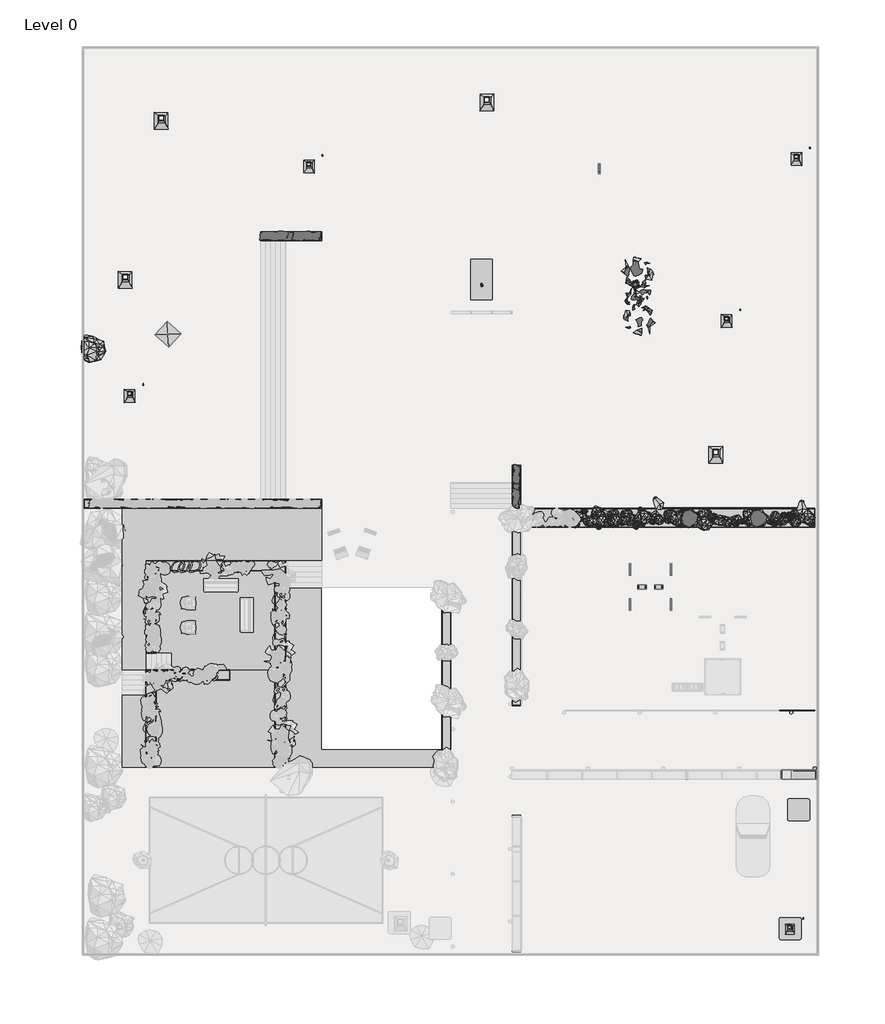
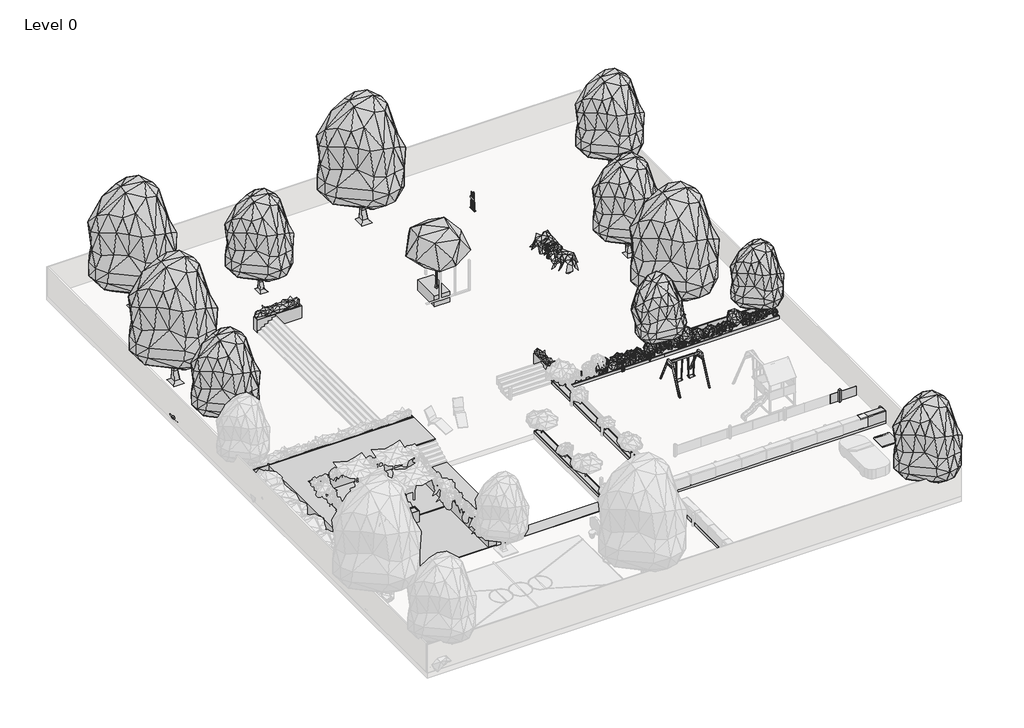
# One storey, part 4 of 4: 97 geographic elements, 4 proxies.
"""IFC4 building model written with IfcOpenShell, lengths in millimetres."""

from ifc_helpers import new_model, si_unit, origin, place, context, project, spatial, transform, mapped, element, save
from components import generic_models_1_generic_models_1_f5644560, generic_models_10_generic_models_10_160b2d12, generic_models_4_generic_models_4_294038c3, generic_models_7_generic_models_7_c26100cc, geographic_element_01e02b02, geographic_element_20805260, geographic_element_4fbb4c08, geographic_element_7a93afb1, geographic_element_43f6a992, geographic_element_9e3005e0, geographic_element_3e6169c2, geographic_element_27884fb9, geographic_element_228c287f, geographic_element_8a64e6b8, geographic_element_bd739b93, geographic_element_a0e0f227, geographic_element_0aed4f9d, geographic_element_f610efd1, geographic_element_6bb354fd, geographic_element_84fd217a, geographic_element_e4e10a39, geographic_element_c9fdac9c, geographic_element_cc1a56ab, geographic_element_db24e404, geographic_element_63926694, geographic_element_56f19f58, geographic_element_ddda1ed9, enscape_assetdefinition_bush_025_fern_enscape_ed9dc602, enscape_assetdefinition_bush_025_fern_enscape_5cccd865, enscape_assetdefinition_bush_025_fern_enscape_c4f5b710, enscape_assetdefinition_deciduous_tree_099_tree_enscape_5098c912, enscape_assetdefinition_fence_005_enscape_assetdefinition_7b85ec42, enscape_assetdefinition_swing_001_enscape_assetdefinition_1559533b

model = new_model("IFC4")

# Units and contexts
model_context = context("Model", 3, world=origin())
ifc_project = project(units=[si_unit("LENGTHUNIT", "METRE", prefix="MILLI")], contexts=[model_context])

# Site, building, storey
site = spatial("IfcSite", under=ifc_project)
building = spatial("IfcBuilding", under=site)
storey = spatial("IfcBuildingStorey", under=building, Name="Level 0", Elevation=0.0)

# Proxies
placement = place(None, origin())
generic_models_1_generic_models_1_shape = generic_models_1_generic_models_1_f5644560(model_context)
element("IfcBuildingElementProxy", 1, Name="Generic Models 1 : Generic Models 1", ObjectType="Generic Models 1 : Generic Models 1", at=placement, inside=storey, context=model_context, shape_type="MappedRepresentation", body=[
    mapped(generic_models_1_generic_models_1_shape, transform((0.0, 0.0, 0.0), x_axis=(1.0, 0.0, 0.0), y_axis=(0.0, 1.0, 0.0), z_axis=(0.0, 0.0, 1.0))),
])
generic_models_10_generic_models_10_shape = generic_models_10_generic_models_10_160b2d12(model_context)
element("IfcBuildingElementProxy", 2, Name="Generic Models 10 : Generic Models 10", ObjectType="Generic Models 10 : Generic Models 10", at=placement, inside=storey, context=model_context, shape_type="MappedRepresentation", body=[
    mapped(generic_models_10_generic_models_10_shape, transform((0.0, 0.0, 0.0), x_axis=(1.0, 0.0, 0.0), y_axis=(0.0, 1.0, 0.0), z_axis=(0.0, 0.0, 1.0))),
])
generic_models_4_generic_models_4_shape = generic_models_4_generic_models_4_294038c3(model_context)
element("IfcBuildingElementProxy", 3, Name="Generic Models 4 : Generic Models 4", ObjectType="Generic Models 4 : Generic Models 4", at=placement, inside=storey, context=model_context, shape_type="MappedRepresentation", body=[
    mapped(generic_models_4_generic_models_4_shape, transform((0.0, 0.0, 0.0), x_axis=(1.0, 0.0, 0.0), y_axis=(0.0, 1.0, 0.0), z_axis=(0.0, 0.0, 1.0))),
])
generic_models_7_generic_models_7_shape = generic_models_7_generic_models_7_c26100cc(model_context)
element("IfcBuildingElementProxy", 4, Name="Generic Models 7 : Generic Models 7", ObjectType="Generic Models 7 : Generic Models 7", at=placement, inside=storey, context=model_context, shape_type="MappedRepresentation", body=[
    mapped(generic_models_7_generic_models_7_shape, transform((0.0, 0.0, 0.0), x_axis=(1.0, 0.0, 0.0), y_axis=(0.0, 1.0, 0.0), z_axis=(0.0, 0.0, 1.0))),
])

# Geographic elements
geographic_element_shape = geographic_element_01e02b02(model_context)
element("IfcGeographicElement", 5, ObjectType="Enscape AssetDefinition - Sunshade 001 : Enscape AssetDefinition - Sunshade 001", at=placement, inside=storey, context=model_context, shape_type="MappedRepresentation", body=[
    mapped(geographic_element_shape, transform((-2409.3302501, 7448.147853, 0.0), x_axis=(0.453990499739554, 0.8910065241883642, 0.0), y_axis=(-0.8910065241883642, 0.453990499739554, 0.0), z_axis=(0.0, 0.0, 1.0))),
])
geographic_element_2_shape = geographic_element_20805260(model_context)
element("IfcGeographicElement", 6, ObjectType="Enscape AssetDefinition - Potted Plant 230 Grapevines : Enscape AssetDefinition - Potted Plant 230 Grapevines", at=placement, inside=storey, context=model_context, shape_type="MappedRepresentation", body=[
    mapped(geographic_element_2_shape, transform((23620.7688632, 10229.0429157, 1140.0), x_axis=(0.5299192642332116, 0.8480480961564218, 0.0), y_axis=(-0.8480480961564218, 0.5299192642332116, 0.0), z_axis=(0.0, 0.0, 1.0))),
])
geographic_element_3_shape = geographic_element_4fbb4c08(model_context)
element("IfcGeographicElement", 7, ObjectType="Enscape AssetDefinition - Potted Plant 230 Grapevines : Enscape AssetDefinition - Potted Plant 230 Grapevines 2", at=placement, inside=storey, context=model_context, shape_type="MappedRepresentation", body=[
    mapped(geographic_element_3_shape, transform((23998.3348394, 9773.5006455, 1140.0), x_axis=(-0.5299192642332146, -0.84804809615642, 0.0), y_axis=(0.84804809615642, -0.5299192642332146, 0.0), z_axis=(0.0, 0.0, 1.0))),
])
element("IfcGeographicElement", 8, ObjectType="Enscape AssetDefinition - Potted Plant 230 Grapevines : Enscape AssetDefinition - Potted Plant 230 Grapevines 2", at=placement, inside=storey, context=model_context, shape_type="MappedRepresentation", body=[
    mapped(geographic_element_3_shape, transform((23526.4936226, 9451.5320594, 1140.0), x_axis=(0.48480962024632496, -0.8746197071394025, 0.0), y_axis=(0.8746197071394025, 0.48480962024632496, 0.0), z_axis=(0.0, 0.0, 1.0))),
])
geographic_element_4_shape = geographic_element_7a93afb1(model_context)
element("IfcGeographicElement", 9, ObjectType="Enscape AssetDefinition - Potted Plant 230 Grapevines : Enscape AssetDefinition - Potted Plant 230 Grapevines 3", at=placement, inside=storey, context=model_context, shape_type="MappedRepresentation", body=[
    mapped(geographic_element_4_shape, transform((23811.9745708, 8230.1848718, 1140.0), x_axis=(-0.7771459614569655, 0.6293203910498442, 0.0), y_axis=(-0.6293203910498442, -0.7771459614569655, 0.0), z_axis=(0.0, 0.0, 1.0))),
])
element("IfcGeographicElement", 10, ObjectType="Enscape AssetDefinition - Potted Plant 230 Grapevines : Enscape AssetDefinition - Potted Plant 230 Grapevines 3", at=placement, inside=storey, context=model_context, shape_type="MappedRepresentation", body=[
    mapped(geographic_element_4_shape, transform((23731.9958415, 10932.4162792, 1050.0), x_axis=(0.8480480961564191, -0.5299192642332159, 0.0), y_axis=(0.5299192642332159, 0.8480480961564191, 0.0), z_axis=(0.0, 0.0, 1.0))),
])
geographic_element_5_shape = geographic_element_43f6a992(model_context)
element("IfcGeographicElement", 11, ObjectType="Enscape AssetDefinition - Billiard Cue 002 Holder : Enscape AssetDefinition - Billiard Cue 002 Holder", at=placement, inside=storey, context=model_context, shape_type="MappedRepresentation", body=[
    mapped(geographic_element_5_shape, transform((21543.1337784, 16666.9206658, 650.0), x_axis=(0.0, 1.0, 0.0), y_axis=(-1.0, 0.0, 0.0), z_axis=(0.0, 0.0, 1.0))),
])
geographic_element_6_shape = geographic_element_9e3005e0(model_context)
element("IfcGeographicElement", 12, ObjectType="Enscape AssetDefinition - Potted Plant 250 Snake Plant : Enscape AssetDefinition - Potted Plant 250 Snake Plant", at=placement, inside=storey, context=model_context, shape_type="MappedRepresentation", body=[
    mapped(geographic_element_6_shape, transform((16987.3079409, -532.1678875, 950.0), x_axis=(1.0, 0.0, 0.0), y_axis=(0.0, 1.0, 0.0), z_axis=(0.0, 0.0, 1.0))),
])
element("IfcGeographicElement", 13, ObjectType="Enscape AssetDefinition - Potted Plant 250 Snake Plant : Enscape AssetDefinition - Potted Plant 250 Snake Plant", at=placement, inside=storey, context=model_context, shape_type="MappedRepresentation", body=[
    mapped(geographic_element_6_shape, transform((16963.1337784, -1513.0793342, 950.0), x_axis=(-1.0, 0.0, 0.0), y_axis=(0.0, -1.0, 0.0), z_axis=(0.0, 0.0, 1.0))),
])
geographic_element_7_shape = geographic_element_3e6169c2(model_context)
element("IfcGeographicElement", 14, ObjectType="Enscape AssetDefinition - Hedge 014 Modular : Enscape AssetDefinition - Hedge 014 Modular", at=placement, inside=storey, context=model_context, shape_type="MappedRepresentation", body=[
    mapped(geographic_element_7_shape, transform((32706.1683235, -17059.8480259, 220.0), x_axis=(1.0, 0.0, 0.0), y_axis=(0.0, 1.0, 0.0), z_axis=(0.0, 0.0, 1.0))),
])
geographic_element_8_shape = geographic_element_27884fb9(model_context)
element("IfcGeographicElement", 15, ObjectType="Enscape AssetDefinition - Evergreen Tree 066 Lophostemon : Enscape AssetDefinition - Evergreen Tree 066 Lophostemon 2", at=placement, inside=storey, context=model_context, shape_type="MappedRepresentation", body=[
    mapped(geographic_element_8_shape, transform((24726.9712662, -2662.1939391, 220.0), x_axis=(0.8386705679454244, 0.5446390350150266, 0.0), y_axis=(-0.5446390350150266, 0.8386705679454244, 0.0), z_axis=(0.0, 0.0, 1.0))),
])
element("IfcGeographicElement", 16, ObjectType="Enscape AssetDefinition - Evergreen Tree 066 Lophostemon : Enscape AssetDefinition - Evergreen Tree 066 Lophostemon 2", at=placement, inside=storey, context=model_context, shape_type="MappedRepresentation", body=[
    mapped(geographic_element_8_shape, transform((32363.1337784, -2692.1678875, 220.0), x_axis=(1.0, 0.0, 0.0), y_axis=(0.0, 1.0, 0.0), z_axis=(0.0, 0.0, 1.0))),
])
geographic_element_9_shape = geographic_element_228c287f(model_context)
element("IfcGeographicElement", 17, ObjectType="Enscape AssetDefinition - Bush 012 English Laurel : Enscape AssetDefinition - Bush 012 English Laurel 2", at=placement, inside=storey, context=model_context, shape_type="MappedRepresentation", body=[
    mapped(geographic_element_9_shape, transform((-6584.7834401, 6663.9078914, 0.0), x_axis=(-0.7796599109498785, 0.626203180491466, 0.0), y_axis=(-0.626203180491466, -0.7796599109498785, 0.0), z_axis=(0.0, 0.0, 1.0))),
])
geographic_element_10_shape = geographic_element_8a64e6b8(model_context)
element("IfcGeographicElement", 18, ObjectType="Enscape AssetDefinition - Bush 012 English Laurel : Enscape AssetDefinition - Bush 012 English Laurel 5", at=placement, inside=storey, context=model_context, shape_type="MappedRepresentation", body=[
    mapped(geographic_element_10_shape, transform((21626.9248447, -2686.8844016, 220.0), x_axis=(-0.7071067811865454, 0.7071067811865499, 0.0), y_axis=(-0.7071067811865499, -0.7071067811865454, 0.0), z_axis=(0.0, 0.0, 1.0))),
])
geographic_element_11_shape = geographic_element_bd739b93(model_context)
element("IfcGeographicElement", 19, ObjectType="Enscape AssetDefinition - Bush 132 Rose of Sharon : Enscape AssetDefinition - Bush 132 Rose of Sharon", at=placement, inside=storey, context=model_context, shape_type="MappedRepresentation", body=[
    mapped(geographic_element_11_shape, transform((30443.1337784, -2772.1678875, 220.0), x_axis=(1.0, 0.0, 0.0), y_axis=(0.0, 1.0, 0.0), z_axis=(0.0, 0.0, 1.0))),
])
geographic_element_12_shape = geographic_element_a0e0f227(model_context)
element("IfcGeographicElement", 20, ObjectType="Enscape AssetDefinition - Bush 135 Rose of Sharon : Enscape AssetDefinition - Bush 135 Rose of Sharon", at=placement, inside=storey, context=model_context, shape_type="MappedRepresentation", body=[
    mapped(geographic_element_12_shape, transform((26615.794841, -2776.8168145, 220.0), x_axis=(1.0, 0.0, 0.0), y_axis=(0.0, 1.0, 0.0), z_axis=(0.0, 0.0, 1.0))),
])
geographic_element_13_shape = geographic_element_0aed4f9d(model_context)
element("IfcGeographicElement", 21, ObjectType="Enscape AssetDefinition - Bush 135 Rose of Sharon : Enscape AssetDefinition - Bush 135 Rose of Sharon 2", at=placement, inside=storey, context=model_context, shape_type="MappedRepresentation", body=[
    mapped(geographic_element_13_shape, transform((27443.1337784, -3052.1678875, 220.0), x_axis=(1.0, 0.0, 0.0), y_axis=(0.0, 1.0, 0.0), z_axis=(0.0, 0.0, 1.0))),
])
element("IfcGeographicElement", 22, ObjectType="Enscape AssetDefinition - Bush 135 Rose of Sharon : Enscape AssetDefinition - Bush 135 Rose of Sharon 2", at=placement, inside=storey, context=model_context, shape_type="MappedRepresentation", body=[
    mapped(geographic_element_13_shape, transform((24041.8688962, -2694.6805431, 220.0), x_axis=(1.0, 0.0, 0.0), y_axis=(0.0, 1.0, 0.0), z_axis=(0.0, 0.0, 1.0))),
])
element("IfcGeographicElement", 23, ObjectType="Enscape AssetDefinition - Bush 135 Rose of Sharon : Enscape AssetDefinition - Bush 135 Rose of Sharon 2", at=placement, inside=storey, context=model_context, shape_type="MappedRepresentation", body=[
    mapped(geographic_element_13_shape, transform((33141.8688962, -2694.6805431, 220.0), x_axis=(1.0, 0.0, 0.0), y_axis=(0.0, 1.0, 0.0), z_axis=(0.0, 0.0, 1.0))),
])
geographic_element_14_shape = geographic_element_f610efd1(model_context)
element("IfcGeographicElement", 24, ObjectType="Enscape AssetDefinition - Bush 012 English Laurel : Enscape AssetDefinition - Bush 012 English Laurel 7", at=placement, inside=storey, context=model_context, shape_type="MappedRepresentation", body=[
    mapped(geographic_element_14_shape, transform((27472.5659538, -2598.6563377, 220.0), x_axis=(0.7071067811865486, 0.7071067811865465, 0.0), y_axis=(-0.7071067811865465, 0.7071067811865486, 0.0), z_axis=(0.0, 0.0, 1.0))),
])
element("IfcGeographicElement", 25, ObjectType="Enscape AssetDefinition - Bush 012 English Laurel : Enscape AssetDefinition - Bush 012 English Laurel 7", at=placement, inside=storey, context=model_context, shape_type="MappedRepresentation", body=[
    mapped(geographic_element_14_shape, transform((23330.6772993, -2868.8158431, 220.0), x_axis=(0.7071067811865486, 0.7071067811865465, 0.0), y_axis=(-0.7071067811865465, 0.7071067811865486, 0.0), z_axis=(0.0, 0.0, 1.0))),
])
element("IfcGeographicElement", 26, ObjectType="Enscape AssetDefinition - Bush 012 English Laurel : Enscape AssetDefinition - Bush 012 English Laurel 7", at=placement, inside=storey, context=model_context, shape_type="MappedRepresentation", body=[
    mapped(geographic_element_14_shape, transform((29972.5659538, -2598.6563377, 220.0), x_axis=(0.7071067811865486, 0.7071067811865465, 0.0), y_axis=(-0.7071067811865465, 0.7071067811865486, 0.0), z_axis=(0.0, 0.0, 1.0))),
])
geographic_element_15_shape = geographic_element_6bb354fd(model_context)
element("IfcGeographicElement", 27, ObjectType="Enscape AssetDefinition - Bush 132 Rose of Sharon : Enscape AssetDefinition - Bush 132 Rose of Sharon 2", at=placement, inside=storey, context=model_context, shape_type="MappedRepresentation", body=[
    mapped(geographic_element_15_shape, transform((22497.4166441, -2868.8158431, 250.0), x_axis=(1.0, 0.0, 0.0), y_axis=(0.0, 1.0, 0.0), z_axis=(0.0, 0.0, 1.0))),
])
element("IfcGeographicElement", 28, ObjectType="Enscape AssetDefinition - Bush 132 Rose of Sharon : Enscape AssetDefinition - Bush 132 Rose of Sharon 2", at=placement, inside=storey, context=model_context, shape_type="MappedRepresentation", body=[
    mapped(geographic_element_15_shape, transform((21737.4166441, -2868.8158431, 250.0), x_axis=(1.0, 0.0, 0.0), y_axis=(0.0, 1.0, 0.0), z_axis=(0.0, 0.0, 1.0))),
])
geographic_element_16_shape = geographic_element_84fd217a(model_context)
element("IfcGeographicElement", 29, ObjectType="Enscape AssetDefinition - Creeper Plant 015 Bower Vine : Enscape AssetDefinition - Creeper Plant 015 Bower Vine 4", at=placement, inside=storey, context=model_context, shape_type="MappedRepresentation", body=[
    mapped(geographic_element_16_shape, transform((21584.5455937, -3306.9781298, 220.0), x_axis=(1.0, 0.0, 0.0), y_axis=(0.0, 1.0, 0.0), z_axis=(0.0, 0.0, 1.0))),
])
geographic_element_17_shape = geographic_element_e4e10a39(model_context)
element("IfcGeographicElement", 30, ObjectType="Enscape AssetDefinition - Bush 135 Rose of Sharon : Enscape AssetDefinition - Bush 135 Rose of Sharon 4", at=placement, inside=storey, context=model_context, shape_type="MappedRepresentation", body=[
    mapped(geographic_element_17_shape, transform((31404.338219, -2669.7511491, 220.0), x_axis=(1.0, 0.0, 0.0), y_axis=(0.0, 1.0, 0.0), z_axis=(0.0, 0.0, 1.0))),
])
element("IfcGeographicElement", 31, ObjectType="Enscape AssetDefinition - Bush 135 Rose of Sharon : Enscape AssetDefinition - Bush 135 Rose of Sharon 4", at=placement, inside=storey, context=model_context, shape_type="MappedRepresentation", body=[
    mapped(geographic_element_17_shape, transform((32500.1765524, -2983.9777347, 220.0), x_axis=(1.0, 0.0, 0.0), y_axis=(0.0, 1.0, 0.0), z_axis=(0.0, 0.0, 1.0))),
])
element("IfcGeographicElement", 32, ObjectType="Enscape AssetDefinition - Bush 135 Rose of Sharon : Enscape AssetDefinition - Bush 135 Rose of Sharon 4", at=placement, inside=storey, context=model_context, shape_type="MappedRepresentation", body=[
    mapped(geographic_element_17_shape, transform((28720.1765524, -2983.9777347, 220.0), x_axis=(1.0, 0.0, 0.0), y_axis=(0.0, 1.0, 0.0), z_axis=(0.0, 0.0, 1.0))),
])
element("IfcGeographicElement", 33, ObjectType="Enscape AssetDefinition - Bush 135 Rose of Sharon : Enscape AssetDefinition - Bush 135 Rose of Sharon 4", at=placement, inside=storey, context=model_context, shape_type="MappedRepresentation", body=[
    mapped(geographic_element_17_shape, transform((24922.4914097, -2851.3596472, 220.0), x_axis=(1.0, 0.0, 0.0), y_axis=(0.0, 1.0, 0.0), z_axis=(0.0, 0.0, 1.0))),
])
geographic_element_18_shape = geographic_element_c9fdac9c(model_context)
element("IfcGeographicElement", 34, ObjectType="Enscape AssetDefinition - Pathway Lamp 002 : Enscape AssetDefinition - Pathway Lamp 002", at=placement, inside=storey, context=model_context, shape_type="MappedRepresentation", body=[
    mapped(geographic_element_18_shape, transform((33593.1337784, -16712.4735801, 0.0), x_axis=(0.0, 1.0, 0.0), y_axis=(-1.0, 0.0, 0.0), z_axis=(0.0, 0.0, 1.0))),
])
geographic_element_19_shape = geographic_element_cc1a56ab(model_context)
element("IfcGeographicElement", 35, ObjectType="Enscape AssetDefinition - Pathway Lamp 002 : Enscape AssetDefinition - Pathway Lamp 002", at=placement, inside=storey, context=model_context, shape_type="MappedRepresentation", body=[
    mapped(geographic_element_19_shape, transform((32280.6337784, -13612.7158507, 0.0), x_axis=(0.0, -1.0, 0.0), y_axis=(1.0, 0.0, 0.0), z_axis=(0.0, 0.0, 1.0))),
])
geographic_element_20_shape = geographic_element_db24e404(model_context)
element("IfcGeographicElement", 36, ObjectType="Enscape AssetDefinition - Evergreen Tree 066 Lophostemon : Enscape AssetDefinition - Evergreen Tree 066 Lophostemon 3", at=placement, inside=storey, context=model_context, shape_type="MappedRepresentation", body=[
    mapped(geographic_element_20_shape, transform((5463.1337784, 16851.8261159, 0.0), x_axis=(1.0, 0.0, 0.0), y_axis=(0.0, 1.0, 0.0), z_axis=(0.0, 0.0, 1.0))),
])
element("IfcGeographicElement", 37, ObjectType="Enscape AssetDefinition - Evergreen Tree 066 Lophostemon : Enscape AssetDefinition - Evergreen Tree 066 Lophostemon 3", at=placement, inside=storey, context=model_context, shape_type="MappedRepresentation", body=[
    mapped(geographic_element_20_shape, transform((28720.1765524, 8254.720421, 0.0), x_axis=(1.0, 0.0, 0.0), y_axis=(0.0, 1.0, 0.0), z_axis=(0.0, 0.0, 1.0))),
])
element("IfcGeographicElement", 38, ObjectType="Enscape AssetDefinition - Evergreen Tree 066 Lophostemon : Enscape AssetDefinition - Evergreen Tree 066 Lophostemon 3", at=placement, inside=storey, context=model_context, shape_type="MappedRepresentation", body=[
    mapped(geographic_element_20_shape, transform((32233.1447257, -25633.0793342, 0.0), x_axis=(1.0, 0.0, 0.0), y_axis=(0.0, 1.0, 0.0), z_axis=(0.0, 0.0, 1.0))),
])
element("IfcGeographicElement", 39, ObjectType="Enscape AssetDefinition - Evergreen Tree 066 Lophostemon : Enscape AssetDefinition - Evergreen Tree 066 Lophostemon 3", at=placement, inside=storey, context=model_context, shape_type="MappedRepresentation", body=[
    mapped(geographic_element_20_shape, transform((32599.7525619, 17266.9206658, 0.0), x_axis=(1.0, 0.0, 0.0), y_axis=(0.0, 1.0, 0.0), z_axis=(0.0, 0.0, 1.0))),
])
element("IfcGeographicElement", 40, ObjectType="Enscape AssetDefinition - Evergreen Tree 066 Lophostemon : Enscape AssetDefinition - Evergreen Tree 066 Lophostemon 3", at=placement, inside=storey, context=model_context, shape_type="MappedRepresentation", body=[
    mapped(geographic_element_20_shape, transform((-4510.5821219, 4086.0519074, 0.0), x_axis=(1.0, 0.0, 0.0), y_axis=(0.0, 1.0, 0.0), z_axis=(0.0, 0.0, 1.0))),
])
geographic_element_21_shape = geographic_element_63926694(model_context)
element("IfcGeographicElement", 41, ObjectType="Enscape AssetDefinition - Flowerbed 002 : Enscape AssetDefinition - Flowerbed 002", at=placement, inside=storey, context=model_context, shape_type="MappedRepresentation", body=[
    mapped(geographic_element_21_shape, transform((32233.1447257, -25633.0793342, 0.0), x_axis=(1.0, 0.0, 0.0), y_axis=(0.0, 1.0, 0.0), z_axis=(0.0, 0.0, 1.0))),
])
element("IfcGeographicElement", 42, ObjectType="Enscape AssetDefinition - Flowerbed 002 : Enscape AssetDefinition - Flowerbed 002", at=placement, inside=storey, context=model_context, shape_type="MappedRepresentation", body=[
    mapped(geographic_element_21_shape, transform((32693.4440978, -19022.8298761, 0.0), x_axis=(1.0, 0.0, 0.0), y_axis=(0.0, 1.0, 0.0), z_axis=(0.0, 0.0, 1.0))),
])
geographic_element_22_shape = geographic_element_56f19f58(model_context)
element("IfcGeographicElement", 43, ObjectType="Enscape AssetDefinition - Evergreen Tree 066 Lophostemon : Enscape AssetDefinition - Evergreen Tree 066 Lophostemon 4", at=placement, inside=storey, context=model_context, shape_type="MappedRepresentation", body=[
    mapped(geographic_element_22_shape, transform((-2756.8662216, 19416.9206658, 0.0), x_axis=(1.0, 0.0, 0.0), y_axis=(0.0, 1.0, 0.0), z_axis=(0.0, 0.0, 1.0))),
])
element("IfcGeographicElement", 44, ObjectType="Enscape AssetDefinition - Evergreen Tree 066 Lophostemon : Enscape AssetDefinition - Evergreen Tree 066 Lophostemon 4", at=placement, inside=storey, context=model_context, shape_type="MappedRepresentation", body=[
    mapped(geographic_element_22_shape, transform((-4756.8662216, 10566.9206658, 0.0), x_axis=(1.0, 0.0, 0.0), y_axis=(0.0, 1.0, 0.0), z_axis=(0.0, 0.0, 1.0))),
])
element("IfcGeographicElement", 45, ObjectType="Enscape AssetDefinition - Evergreen Tree 066 Lophostemon : Enscape AssetDefinition - Evergreen Tree 066 Lophostemon 4", at=placement, inside=storey, context=model_context, shape_type="MappedRepresentation", body=[
    mapped(geographic_element_22_shape, transform((15376.9648541, 20441.218895, 0.0), x_axis=(1.0, 0.0, 0.0), y_axis=(0.0, 1.0, 0.0), z_axis=(0.0, 0.0, 1.0))),
])
element("IfcGeographicElement", 46, ObjectType="Enscape AssetDefinition - Evergreen Tree 066 Lophostemon : Enscape AssetDefinition - Evergreen Tree 066 Lophostemon 4", at=placement, inside=storey, context=model_context, shape_type="MappedRepresentation", body=[
    mapped(geographic_element_22_shape, transform((28121.1331353, 816.9206658, 0.0), x_axis=(1.0, 0.0, 0.0), y_axis=(0.0, 1.0, 0.0), z_axis=(0.0, 0.0, 1.0))),
])
geographic_element_23_shape = geographic_element_ddda1ed9(model_context)
element("IfcGeographicElement", 47, ObjectType="Enscape AssetDefinition - Potted Plant 250 Snake Plant : Enscape AssetDefinition - Potted Plant 250 Snake Plant 2", at=placement, inside=storey, context=model_context, shape_type="MappedRepresentation", body=[
    mapped(geographic_element_23_shape, transform((5143.1337784, 12926.9206658, 950.0), x_axis=(0.0, -1.0, 0.0), y_axis=(1.0, 0.0, 0.0), z_axis=(0.0, 0.0, 1.0))),
])
element("IfcGeographicElement", 48, ObjectType="Enscape AssetDefinition - Potted Plant 250 Snake Plant : Enscape AssetDefinition - Potted Plant 250 Snake Plant 2", at=placement, inside=storey, context=model_context, shape_type="MappedRepresentation", body=[
    mapped(geographic_element_23_shape, transform((3657.1705138, 12926.9206658, 950.0), x_axis=(0.0, 1.0, 0.0), y_axis=(-1.0, 0.0, 0.0), z_axis=(0.0, 0.0, 1.0))),
])
enscape_assetdefinition_bush_025_fern_enscape_shape = enscape_assetdefinition_bush_025_fern_enscape_ed9dc602(model_context)
element("IfcGeographicElement", 49, ObjectType="Enscape AssetDefinition - Bush 025 Fern : Enscape AssetDefinition - Bush 025 Fern 2", at=placement, inside=storey, context=model_context, shape_type="MappedRepresentation", body=[
    mapped(enscape_assetdefinition_bush_025_fern_enscape_shape, transform((20332.5105049, -3163.5085952, 95.8966531), x_axis=(0.8746197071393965, 0.4848096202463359, 0.0), y_axis=(-0.4848096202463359, 0.8746197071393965, 0.0), z_axis=(0.0, 0.0, 1.0))),
])
element("IfcGeographicElement", 50, ObjectType="Enscape AssetDefinition - Bush 025 Fern : Enscape AssetDefinition - Bush 025 Fern 2", at=placement, inside=storey, context=model_context, shape_type="MappedRepresentation", body=[
    mapped(enscape_assetdefinition_bush_025_fern_enscape_shape, transform((20772.3303867, -2434.1872325, 220.0), x_axis=(0.8746197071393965, 0.4848096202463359, 0.0), y_axis=(-0.4848096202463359, 0.8746197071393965, 0.0), z_axis=(0.0, 0.0, 1.0))),
])
element("IfcGeographicElement", 51, ObjectType="Enscape AssetDefinition - Bush 025 Fern : Enscape AssetDefinition - Bush 025 Fern 2", at=placement, inside=storey, context=model_context, shape_type="MappedRepresentation", body=[
    mapped(enscape_assetdefinition_bush_025_fern_enscape_shape, transform((20077.3452978, -2788.2998223, 220.0), x_axis=(0.8746197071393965, 0.4848096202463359, 0.0), y_axis=(-0.4848096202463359, 0.8746197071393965, 0.0), z_axis=(0.0, 0.0, 1.0))),
])
element("IfcGeographicElement", 52, ObjectType="Enscape AssetDefinition - Bush 025 Fern : Enscape AssetDefinition - Bush 025 Fern 2", at=placement, inside=storey, context=model_context, shape_type="MappedRepresentation", body=[
    mapped(enscape_assetdefinition_bush_025_fern_enscape_shape, transform((23993.4879616, -3030.4446595, 94.7759584), x_axis=(-0.48480962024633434, 0.8746197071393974, 0.0), y_axis=(-0.8746197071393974, -0.48480962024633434, 0.0), z_axis=(0.0, 0.0, 1.0))),
])
element("IfcGeographicElement", 53, ObjectType="Enscape AssetDefinition - Bush 025 Fern : Enscape AssetDefinition - Bush 025 Fern 2", at=placement, inside=storey, context=model_context, shape_type="MappedRepresentation", body=[
    mapped(enscape_assetdefinition_bush_025_fern_enscape_shape, transform((23703.7102137, -3108.0903731, 94.7759584), x_axis=(-0.48480962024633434, 0.8746197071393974, 0.0), y_axis=(-0.8746197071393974, -0.48480962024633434, 0.0), z_axis=(0.0, 0.0, 1.0))),
])
element("IfcGeographicElement", 54, ObjectType="Enscape AssetDefinition - Bush 025 Fern : Enscape AssetDefinition - Bush 025 Fern 2", at=placement, inside=storey, context=model_context, shape_type="MappedRepresentation", body=[
    mapped(enscape_assetdefinition_bush_025_fern_enscape_shape, transform((23618.8574, -3192.9431868, 94.7759584), x_axis=(-0.48480962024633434, 0.8746197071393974, 0.0), y_axis=(-0.8746197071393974, -0.48480962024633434, 0.0), z_axis=(0.0, 0.0, 1.0))),
])
element("IfcGeographicElement", 55, ObjectType="Enscape AssetDefinition - Bush 025 Fern : Enscape AssetDefinition - Bush 025 Fern 2", at=placement, inside=storey, context=model_context, shape_type="MappedRepresentation", body=[
    mapped(enscape_assetdefinition_bush_025_fern_enscape_shape, transform((23925.1904143, -2358.6203648, 220.0), x_axis=(-0.48480962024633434, 0.8746197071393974, 0.0), y_axis=(-0.8746197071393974, -0.48480962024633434, 0.0), z_axis=(0.0, 0.0, 1.0))),
])
element("IfcGeographicElement", 56, ObjectType="Enscape AssetDefinition - Bush 025 Fern : Enscape AssetDefinition - Bush 025 Fern 2", at=placement, inside=storey, context=model_context, shape_type="MappedRepresentation", body=[
    mapped(enscape_assetdefinition_bush_025_fern_enscape_shape, transform((26441.8677473, -2982.3380015, 94.7759584), x_axis=(-0.48480962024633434, 0.8746197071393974, 0.0), y_axis=(-0.8746197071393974, -0.48480962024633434, 0.0), z_axis=(0.0, 0.0, 1.0))),
])
element("IfcGeographicElement", 57, ObjectType="Enscape AssetDefinition - Bush 025 Fern : Enscape AssetDefinition - Bush 025 Fern 2", at=placement, inside=storey, context=model_context, shape_type="MappedRepresentation", body=[
    mapped(enscape_assetdefinition_bush_025_fern_enscape_shape, transform((26941.8677473, -2982.3380015, 94.7759584), x_axis=(-0.48480962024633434, 0.8746197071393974, 0.0), y_axis=(-0.8746197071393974, -0.48480962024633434, 0.0), z_axis=(0.0, 0.0, 1.0))),
])
element("IfcGeographicElement", 58, ObjectType="Enscape AssetDefinition - Bush 025 Fern : Enscape AssetDefinition - Bush 025 Fern 2", at=placement, inside=storey, context=model_context, shape_type="MappedRepresentation", body=[
    mapped(enscape_assetdefinition_bush_025_fern_enscape_shape, transform((27121.8677473, -2982.3380015, 94.7759584), x_axis=(-0.48480962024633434, 0.8746197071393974, 0.0), y_axis=(-0.8746197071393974, -0.48480962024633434, 0.0), z_axis=(0.0, 0.0, 1.0))),
])
element("IfcGeographicElement", 59, ObjectType="Enscape AssetDefinition - Bush 025 Fern : Enscape AssetDefinition - Bush 025 Fern 2", at=placement, inside=storey, context=model_context, shape_type="MappedRepresentation", body=[
    mapped(enscape_assetdefinition_bush_025_fern_enscape_shape, transform((26298.3732458, -3061.8783025, 94.7759584), x_axis=(-0.48480962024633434, 0.8746197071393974, 0.0), y_axis=(-0.8746197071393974, -0.48480962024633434, 0.0), z_axis=(0.0, 0.0, 1.0))),
])
element("IfcGeographicElement", 60, ObjectType="Enscape AssetDefinition - Bush 025 Fern : Enscape AssetDefinition - Bush 025 Fern 2", at=placement, inside=storey, context=model_context, shape_type="MappedRepresentation", body=[
    mapped(enscape_assetdefinition_bush_025_fern_enscape_shape, transform((25393.718523, -2921.21369, 94.7759584), x_axis=(-0.9852527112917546, 0.1711055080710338, 0.0), y_axis=(-0.1711055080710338, -0.9852527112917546, 0.0), z_axis=(0.0, 0.0, 1.0))),
])
element("IfcGeographicElement", 61, ObjectType="Enscape AssetDefinition - Bush 025 Fern : Enscape AssetDefinition - Bush 025 Fern 2", at=placement, inside=storey, context=model_context, shape_type="MappedRepresentation", body=[
    mapped(enscape_assetdefinition_bush_025_fern_enscape_shape, transform((24393.0360188, -2647.9163745, 94.7759584), x_axis=(-0.48480962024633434, 0.8746197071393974, 0.0), y_axis=(-0.8746197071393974, -0.48480962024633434, 0.0), z_axis=(0.0, 0.0, 1.0))),
])
element("IfcGeographicElement", 62, ObjectType="Enscape AssetDefinition - Bush 025 Fern : Enscape AssetDefinition - Bush 025 Fern 2", at=placement, inside=storey, context=model_context, shape_type="MappedRepresentation", body=[
    mapped(enscape_assetdefinition_bush_025_fern_enscape_shape, transform((27980.7247211, -2654.7700417, 220.0), x_axis=(-0.9961946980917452, 0.08715574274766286, 0.0), y_axis=(-0.08715574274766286, -0.9961946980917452, 0.0), z_axis=(0.0, 0.0, 1.0))),
])
element("IfcGeographicElement", 63, ObjectType="Enscape AssetDefinition - Bush 025 Fern : Enscape AssetDefinition - Bush 025 Fern 2", at=placement, inside=storey, context=model_context, shape_type="MappedRepresentation", body=[
    mapped(enscape_assetdefinition_bush_025_fern_enscape_shape, transform((27926.0487207, -2897.9163745, 94.7759584), x_axis=(-0.48480962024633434, 0.8746197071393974, 0.0), y_axis=(-0.8746197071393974, -0.48480962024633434, 0.0), z_axis=(0.0, 0.0, 1.0))),
])
element("IfcGeographicElement", 64, ObjectType="Enscape AssetDefinition - Bush 025 Fern : Enscape AssetDefinition - Bush 025 Fern 2", at=placement, inside=storey, context=model_context, shape_type="MappedRepresentation", body=[
    mapped(enscape_assetdefinition_bush_025_fern_enscape_shape, transform((32174.9687671, -2874.5810579, 220.0), x_axis=(-0.9961946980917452, 0.08715574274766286, 0.0), y_axis=(-0.08715574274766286, -0.9961946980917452, 0.0), z_axis=(0.0, 0.0, 1.0))),
])
element("IfcGeographicElement", 65, ObjectType="Enscape AssetDefinition - Bush 025 Fern : Enscape AssetDefinition - Bush 025 Fern 2", at=placement, inside=storey, context=model_context, shape_type="MappedRepresentation", body=[
    mapped(enscape_assetdefinition_bush_025_fern_enscape_shape, transform((31079.1545992, -2970.452375, 220.0), x_axis=(-0.9961946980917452, 0.08715574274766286, 0.0), y_axis=(-0.08715574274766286, -0.9961946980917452, 0.0), z_axis=(0.0, 0.0, 1.0))),
])
element("IfcGeographicElement", 66, ObjectType="Enscape AssetDefinition - Bush 025 Fern : Enscape AssetDefinition - Bush 025 Fern 2", at=placement, inside=storey, context=model_context, shape_type="MappedRepresentation", body=[
    mapped(enscape_assetdefinition_bush_025_fern_enscape_shape, transform((24528.3816851, -2970.452375, 220.0), x_axis=(-0.9961946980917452, 0.08715574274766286, 0.0), y_axis=(-0.08715574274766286, -0.9961946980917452, 0.0), z_axis=(0.0, 0.0, 1.0))),
])
element("IfcGeographicElement", 67, ObjectType="Enscape AssetDefinition - Bush 025 Fern : Enscape AssetDefinition - Bush 025 Fern 2", at=placement, inside=storey, context=model_context, shape_type="MappedRepresentation", body=[
    mapped(enscape_assetdefinition_bush_025_fern_enscape_shape, transform((28028.3816851, -2970.452375, 220.0), x_axis=(-0.9961946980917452, 0.08715574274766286, 0.0), y_axis=(-0.08715574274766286, -0.9961946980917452, 0.0), z_axis=(0.0, 0.0, 1.0))),
])
element("IfcGeographicElement", 68, ObjectType="Enscape AssetDefinition - Bush 025 Fern : Enscape AssetDefinition - Bush 025 Fern 2", at=placement, inside=storey, context=model_context, shape_type="MappedRepresentation", body=[
    mapped(enscape_assetdefinition_bush_025_fern_enscape_shape, transform((26052.5096923, -3151.7892408, 220.0), x_axis=(-0.9961946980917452, 0.08715574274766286, 0.0), y_axis=(-0.08715574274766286, -0.9961946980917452, 0.0), z_axis=(0.0, 0.0, 1.0))),
])
element("IfcGeographicElement", 69, ObjectType="Enscape AssetDefinition - Bush 025 Fern : Enscape AssetDefinition - Bush 025 Fern 2", at=placement, inside=storey, context=model_context, shape_type="MappedRepresentation", body=[
    mapped(enscape_assetdefinition_bush_025_fern_enscape_shape, transform((27005.1376365, -2601.7892408, 220.0), x_axis=(-0.9961946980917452, 0.08715574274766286, 0.0), y_axis=(-0.08715574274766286, -0.9961946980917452, 0.0), z_axis=(0.0, 0.0, 1.0))),
])
element("IfcGeographicElement", 70, ObjectType="Enscape AssetDefinition - Bush 025 Fern : Enscape AssetDefinition - Bush 025 Fern 2", at=placement, inside=storey, context=model_context, shape_type="MappedRepresentation", body=[
    mapped(enscape_assetdefinition_bush_025_fern_enscape_shape, transform((31905.1376365, -2601.7892408, 220.0), x_axis=(-0.9961946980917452, 0.08715574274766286, 0.0), y_axis=(-0.08715574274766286, -0.9961946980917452, 0.0), z_axis=(0.0, 0.0, 1.0))),
])
element("IfcGeographicElement", 71, ObjectType="Enscape AssetDefinition - Bush 025 Fern : Enscape AssetDefinition - Bush 025 Fern 2", at=placement, inside=storey, context=model_context, shape_type="MappedRepresentation", body=[
    mapped(enscape_assetdefinition_bush_025_fern_enscape_shape, transform((29472.7980399, -2944.7997147, 220.0), x_axis=(-0.9961946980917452, 0.08715574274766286, 0.0), y_axis=(-0.08715574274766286, -0.9961946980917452, 0.0), z_axis=(0.0, 0.0, 1.0))),
])
element("IfcGeographicElement", 72, ObjectType="Enscape AssetDefinition - Bush 025 Fern : Enscape AssetDefinition - Bush 025 Fern 2", at=placement, inside=storey, context=model_context, shape_type="MappedRepresentation", body=[
    mapped(enscape_assetdefinition_bush_025_fern_enscape_shape, transform((29164.6533923, -3088.4899237, 220.0), x_axis=(-0.9961946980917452, 0.08715574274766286, 0.0), y_axis=(-0.08715574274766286, -0.9961946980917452, 0.0), z_axis=(0.0, 0.0, 1.0))),
])
element("IfcGeographicElement", 73, ObjectType="Enscape AssetDefinition - Bush 025 Fern : Enscape AssetDefinition - Bush 025 Fern 2", at=placement, inside=storey, context=model_context, shape_type="MappedRepresentation", body=[
    mapped(enscape_assetdefinition_bush_025_fern_enscape_shape, transform((31324.6533923, -3088.4899237, 220.0), x_axis=(-0.9961946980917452, 0.08715574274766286, 0.0), y_axis=(-0.08715574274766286, -0.9961946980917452, 0.0), z_axis=(0.0, 0.0, 1.0))),
])
element("IfcGeographicElement", 74, ObjectType="Enscape AssetDefinition - Bush 025 Fern : Enscape AssetDefinition - Bush 025 Fern 2", at=placement, inside=storey, context=model_context, shape_type="MappedRepresentation", body=[
    mapped(enscape_assetdefinition_bush_025_fern_enscape_shape, transform((33364.6533923, -3088.4899237, 220.0), x_axis=(-0.9961946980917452, 0.08715574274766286, 0.0), y_axis=(-0.08715574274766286, -0.9961946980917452, 0.0), z_axis=(0.0, 0.0, 1.0))),
])
element("IfcGeographicElement", 75, ObjectType="Enscape AssetDefinition - Bush 025 Fern : Enscape AssetDefinition - Bush 025 Fern 2", at=placement, inside=storey, context=model_context, shape_type="MappedRepresentation", body=[
    mapped(enscape_assetdefinition_bush_025_fern_enscape_shape, transform((32663.5940362, -2746.5604292, 220.0), x_axis=(-0.9961946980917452, 0.08715574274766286, 0.0), y_axis=(-0.08715574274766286, -0.9961946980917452, 0.0), z_axis=(0.0, 0.0, 1.0))),
])
element("IfcGeographicElement", 76, ObjectType="Enscape AssetDefinition - Bush 025 Fern : Enscape AssetDefinition - Bush 025 Fern 2", at=placement, inside=storey, context=model_context, shape_type="MappedRepresentation", body=[
    mapped(enscape_assetdefinition_bush_025_fern_enscape_shape, transform((32199.9496396, -2622.3272875, 220.0), x_axis=(-0.9961946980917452, 0.08715574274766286, 0.0), y_axis=(-0.08715574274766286, -0.9961946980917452, 0.0), z_axis=(0.0, 0.0, 1.0))),
])
enscape_assetdefinition_bush_025_fern_enscape_2_shape = enscape_assetdefinition_bush_025_fern_enscape_5cccd865(model_context)
element("IfcGeographicElement", 77, ObjectType="Enscape AssetDefinition - Bush 025 Fern : Enscape AssetDefinition - Bush 025 Fern 3", at=placement, inside=storey, context=model_context, shape_type="MappedRepresentation", body=[
    mapped(enscape_assetdefinition_bush_025_fern_enscape_2_shape, transform((22400.1431885, -2551.7829329, 94.7759584), x_axis=(0.8746197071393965, 0.4848096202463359, 0.0), y_axis=(-0.4848096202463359, 0.8746197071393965, 0.0), z_axis=(0.0, 0.0, 1.0))),
])
element("IfcGeographicElement", 78, ObjectType="Enscape AssetDefinition - Bush 025 Fern : Enscape AssetDefinition - Bush 025 Fern 3", at=placement, inside=storey, context=model_context, shape_type="MappedRepresentation", body=[
    mapped(enscape_assetdefinition_bush_025_fern_enscape_2_shape, transform((22980.8705166, -2938.7252809, 220.0), x_axis=(0.8746197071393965, 0.4848096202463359, 0.0), y_axis=(-0.4848096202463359, 0.8746197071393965, 0.0), z_axis=(0.0, 0.0, 1.0))),
])
element("IfcGeographicElement", 79, ObjectType="Enscape AssetDefinition - Bush 025 Fern : Enscape AssetDefinition - Bush 025 Fern 3", at=placement, inside=storey, context=model_context, shape_type="MappedRepresentation", body=[
    mapped(enscape_assetdefinition_bush_025_fern_enscape_2_shape, transform((21963.793842, -3045.3443134, 94.7759584), x_axis=(0.8746197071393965, 0.4848096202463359, 0.0), y_axis=(-0.4848096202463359, 0.8746197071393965, 0.0), z_axis=(0.0, 0.0, 1.0))),
])
element("IfcGeographicElement", 80, ObjectType="Enscape AssetDefinition - Bush 025 Fern : Enscape AssetDefinition - Bush 025 Fern 3", at=placement, inside=storey, context=model_context, shape_type="MappedRepresentation", body=[
    mapped(enscape_assetdefinition_bush_025_fern_enscape_2_shape, transform((20010.0743425, -3007.7075059, 95.8966531), x_axis=(0.8746197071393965, 0.4848096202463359, 0.0), y_axis=(-0.4848096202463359, 0.8746197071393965, 0.0), z_axis=(0.0, 0.0, 1.0))),
])
element("IfcGeographicElement", 81, ObjectType="Enscape AssetDefinition - Bush 025 Fern : Enscape AssetDefinition - Bush 025 Fern 3", at=placement, inside=storey, context=model_context, shape_type="MappedRepresentation", body=[
    mapped(enscape_assetdefinition_bush_025_fern_enscape_2_shape, transform((21587.7005135, -2592.7959735, 217.5673405), x_axis=(0.8746197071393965, 0.4848096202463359, 0.0), y_axis=(-0.4848096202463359, 0.8746197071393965, 0.0), z_axis=(0.0, 0.0, 1.0))),
])
element("IfcGeographicElement", 82, ObjectType="Enscape AssetDefinition - Bush 025 Fern : Enscape AssetDefinition - Bush 025 Fern 3", at=placement, inside=storey, context=model_context, shape_type="MappedRepresentation", body=[
    mapped(enscape_assetdefinition_bush_025_fern_enscape_2_shape, transform((21648.0535593, -2968.6730218, 94.7759584), x_axis=(0.8746197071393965, 0.4848096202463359, 0.0), y_axis=(-0.4848096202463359, 0.8746197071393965, 0.0), z_axis=(0.0, 0.0, 1.0))),
])
element("IfcGeographicElement", 83, ObjectType="Enscape AssetDefinition - Bush 025 Fern : Enscape AssetDefinition - Bush 025 Fern 3", at=placement, inside=storey, context=model_context, shape_type="MappedRepresentation", body=[
    mapped(enscape_assetdefinition_bush_025_fern_enscape_2_shape, transform((23128.3965711, -2544.1914938, 94.7759584), x_axis=(0.8746197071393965, 0.4848096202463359, 0.0), y_axis=(-0.4848096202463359, 0.8746197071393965, 0.0), z_axis=(0.0, 0.0, 1.0))),
])
element("IfcGeographicElement", 84, ObjectType="Enscape AssetDefinition - Bush 025 Fern : Enscape AssetDefinition - Bush 025 Fern 3", at=placement, inside=storey, context=model_context, shape_type="MappedRepresentation", body=[
    mapped(enscape_assetdefinition_bush_025_fern_enscape_2_shape, transform((22506.4712359, -3047.8361157, 94.7759584), x_axis=(0.8746197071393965, 0.4848096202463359, 0.0), y_axis=(-0.4848096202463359, 0.8746197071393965, 0.0), z_axis=(0.0, 0.0, 1.0))),
])
element("IfcGeographicElement", 85, ObjectType="Enscape AssetDefinition - Bush 025 Fern : Enscape AssetDefinition - Bush 025 Fern 3", at=placement, inside=storey, context=model_context, shape_type="MappedRepresentation", body=[
    mapped(enscape_assetdefinition_bush_025_fern_enscape_2_shape, transform((25528.3965711, -2544.1914938, 94.7759584), x_axis=(0.8746197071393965, 0.4848096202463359, 0.0), y_axis=(-0.4848096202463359, 0.8746197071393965, 0.0), z_axis=(0.0, 0.0, 1.0))),
])
element("IfcGeographicElement", 86, ObjectType="Enscape AssetDefinition - Bush 025 Fern : Enscape AssetDefinition - Bush 025 Fern 3", at=placement, inside=storey, context=model_context, shape_type="MappedRepresentation", body=[
    mapped(enscape_assetdefinition_bush_025_fern_enscape_2_shape, transform((29214.316954, -2866.667742, 94.7759584), x_axis=(0.8746197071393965, 0.4848096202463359, 0.0), y_axis=(-0.4848096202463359, 0.8746197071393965, 0.0), z_axis=(0.0, 0.0, 1.0))),
])
element("IfcGeographicElement", 87, ObjectType="Enscape AssetDefinition - Bush 025 Fern : Enscape AssetDefinition - Bush 025 Fern 3", at=placement, inside=storey, context=model_context, shape_type="MappedRepresentation", body=[
    mapped(enscape_assetdefinition_bush_025_fern_enscape_2_shape, transform((32595.6913983, -2511.2709669, 94.7759584), x_axis=(0.8746197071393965, 0.4848096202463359, 0.0), y_axis=(-0.4848096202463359, 0.8746197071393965, 0.0), z_axis=(0.0, 0.0, 1.0))),
])
element("IfcGeographicElement", 88, ObjectType="Enscape AssetDefinition - Bush 025 Fern : Enscape AssetDefinition - Bush 025 Fern 3", at=placement, inside=storey, context=model_context, shape_type="MappedRepresentation", body=[
    mapped(enscape_assetdefinition_bush_025_fern_enscape_2_shape, transform((31816.2685349, -2961.2709669, 94.7759584), x_axis=(0.8746197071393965, 0.4848096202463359, 0.0), y_axis=(-0.4848096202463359, 0.8746197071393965, 0.0), z_axis=(0.0, 0.0, 1.0))),
])
element("IfcGeographicElement", 89, ObjectType="Enscape AssetDefinition - Bush 025 Fern : Enscape AssetDefinition - Bush 025 Fern 3", at=placement, inside=storey, context=model_context, shape_type="MappedRepresentation", body=[
    mapped(enscape_assetdefinition_bush_025_fern_enscape_2_shape, transform((29911.4921098, -2980.5918313, 94.7759584), x_axis=(0.9612616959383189, -0.2756373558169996, 0.0), y_axis=(0.2756373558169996, 0.9612616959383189, 0.0), z_axis=(0.0, 0.0, 1.0))),
])
enscape_assetdefinition_bush_025_fern_enscape_3_shape = enscape_assetdefinition_bush_025_fern_enscape_c4f5b710(model_context)
element("IfcGeographicElement", 90, ObjectType="Enscape AssetDefinition - Bush 025 Fern : Enscape AssetDefinition - Bush 025 Fern 4", at=placement, inside=storey, context=model_context, shape_type="MappedRepresentation", body=[
    mapped(enscape_assetdefinition_bush_025_fern_enscape_3_shape, transform((20517.2663814, -2690.9695651, 67.2574192), x_axis=(1.0, 0.0, 0.0), y_axis=(0.0, 1.0, 0.0), z_axis=(0.0, 0.0, 1.0))),
])
element("IfcGeographicElement", 91, ObjectType="Enscape AssetDefinition - Bush 025 Fern : Enscape AssetDefinition - Bush 025 Fern 4", at=placement, inside=storey, context=model_context, shape_type="MappedRepresentation", body=[
    mapped(enscape_assetdefinition_bush_025_fern_enscape_3_shape, transform((21116.2329816, -2977.2750228, 67.2574192), x_axis=(1.0, 0.0, 0.0), y_axis=(0.0, 1.0, 0.0), z_axis=(0.0, 0.0, 1.0))),
])
element("IfcGeographicElement", 92, ObjectType="Enscape AssetDefinition - Bush 025 Fern : Enscape AssetDefinition - Bush 025 Fern 4", at=placement, inside=storey, context=model_context, shape_type="MappedRepresentation", body=[
    mapped(enscape_assetdefinition_bush_025_fern_enscape_3_shape, transform((26090.0744804, -2634.6736858, 94.7759584), x_axis=(-0.8829475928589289, -0.4694715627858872, 0.0), y_axis=(0.4694715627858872, -0.8829475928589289, 0.0), z_axis=(0.0, 0.0, 1.0))),
])
element("IfcGeographicElement", 93, ObjectType="Enscape AssetDefinition - Bush 025 Fern : Enscape AssetDefinition - Bush 025 Fern 4", at=placement, inside=storey, context=model_context, shape_type="MappedRepresentation", body=[
    mapped(enscape_assetdefinition_bush_025_fern_enscape_3_shape, transform((25850.5113144, -2762.0516806, 94.7759584), x_axis=(-0.48480962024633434, 0.8746197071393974, 0.0), y_axis=(-0.8746197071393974, -0.48480962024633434, 0.0), z_axis=(0.0, 0.0, 1.0))),
])
element("IfcGeographicElement", 94, ObjectType="Enscape AssetDefinition - Bush 025 Fern : Enscape AssetDefinition - Bush 025 Fern 4", at=placement, inside=storey, context=model_context, shape_type="MappedRepresentation", body=[
    mapped(enscape_assetdefinition_bush_025_fern_enscape_3_shape, transform((28374.7930282, -2918.4382955, 76.3577842), x_axis=(-0.990268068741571, -0.13917310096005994, 0.0), y_axis=(0.13917310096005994, -0.990268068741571, 0.0), z_axis=(0.0, 0.0, 1.0))),
])
enscape_assetdefinition_deciduous_tree_099_tree_enscape_shape = enscape_assetdefinition_deciduous_tree_099_tree_enscape_5098c912(model_context)
element("IfcGeographicElement", 95, ObjectType="Enscape AssetDefinition - Deciduous Tree 099 Tree : Enscape AssetDefinition - Deciduous Tree 099 Tree 4", at=placement, inside=storey, context=model_context, shape_type="MappedRepresentation", body=[
    mapped(enscape_assetdefinition_deciduous_tree_099_tree_enscape_shape, transform((15063.1337784, 10186.4728324, 1037.8327897), x_axis=(1.0, 0.0, 0.0), y_axis=(0.0, 1.0, 0.0), z_axis=(0.0, 0.0, 1.0))),
])
enscape_assetdefinition_fence_005_enscape_assetdefinition_shape = enscape_assetdefinition_fence_005_enscape_assetdefinition_7b85ec42(model_context)
element("IfcGeographicElement", 96, ObjectType="Enscape AssetDefinition - Fence 005 : Enscape AssetDefinition - Fence 005", at=placement, inside=storey, context=model_context, shape_type="MappedRepresentation", body=[
    mapped(enscape_assetdefinition_fence_005_enscape_assetdefinition_shape, transform((32599.7525619, -13510.1700687, 0.0), x_axis=(1.0, 0.0, 0.0), y_axis=(0.0, 1.0, 0.0), z_axis=(0.0, 0.0, 1.0))),
])
element("IfcGeographicElement", 97, ObjectType="Enscape AssetDefinition - Fence 005 : Enscape AssetDefinition - Fence 005", at=placement, inside=storey, context=model_context, shape_type="MappedRepresentation", body=[
    mapped(enscape_assetdefinition_fence_005_enscape_assetdefinition_shape, transform((31691.7575198, -2233.0793342, 0.0), x_axis=(1.0, 0.0, 0.0), y_axis=(0.0, 1.0, 0.0), z_axis=(0.0, 0.0, 1.0))),
])
element("IfcGeographicElement", 98, ObjectType="Enscape AssetDefinition - Fence 005 : Enscape AssetDefinition - Fence 005", at=placement, inside=storey, context=model_context, shape_type="MappedRepresentation", body=[
    mapped(enscape_assetdefinition_fence_005_enscape_assetdefinition_shape, transform((29706.7575198, -2233.0793342, 0.0), x_axis=(1.0, 0.0, 0.0), y_axis=(0.0, 1.0, 0.0), z_axis=(0.0, 0.0, 1.0))),
])
element("IfcGeographicElement", 99, ObjectType="Enscape AssetDefinition - Fence 005 : Enscape AssetDefinition - Fence 005", at=placement, inside=storey, context=model_context, shape_type="MappedRepresentation", body=[
    mapped(enscape_assetdefinition_fence_005_enscape_assetdefinition_shape, transform((27721.7575198, -2233.0793342, 0.0), x_axis=(1.0, 0.0, 0.0), y_axis=(0.0, 1.0, 0.0), z_axis=(0.0, 0.0, 1.0))),
])
element("IfcGeographicElement", 100, ObjectType="Enscape AssetDefinition - Fence 005 : Enscape AssetDefinition - Fence 005", at=placement, inside=storey, context=model_context, shape_type="MappedRepresentation", body=[
    mapped(enscape_assetdefinition_fence_005_enscape_assetdefinition_shape, transform((25735.72777, -2233.0793342, 0.0), x_axis=(1.0, 0.0, 0.0), y_axis=(0.0, 1.0, 0.0), z_axis=(0.0, 0.0, 1.0))),
])
enscape_assetdefinition_swing_001_enscape_assetdefinition_shape = enscape_assetdefinition_swing_001_enscape_assetdefinition_1559533b(model_context)
element("IfcGeographicElement", 101, ObjectType="Enscape AssetDefinition - Swing 001 : Enscape AssetDefinition - Swing 001", at=placement, inside=storey, context=model_context, shape_type="MappedRepresentation", body=[
    mapped(enscape_assetdefinition_swing_001_enscape_assetdefinition_shape, transform((24443.1337784, -6618.4130328, 0.0), x_axis=(-1.0, 0.0, 0.0), y_axis=(0.0, -1.0, 0.0), z_axis=(0.0, 0.0, 1.0))),
])

save(model, "model.ifc")
